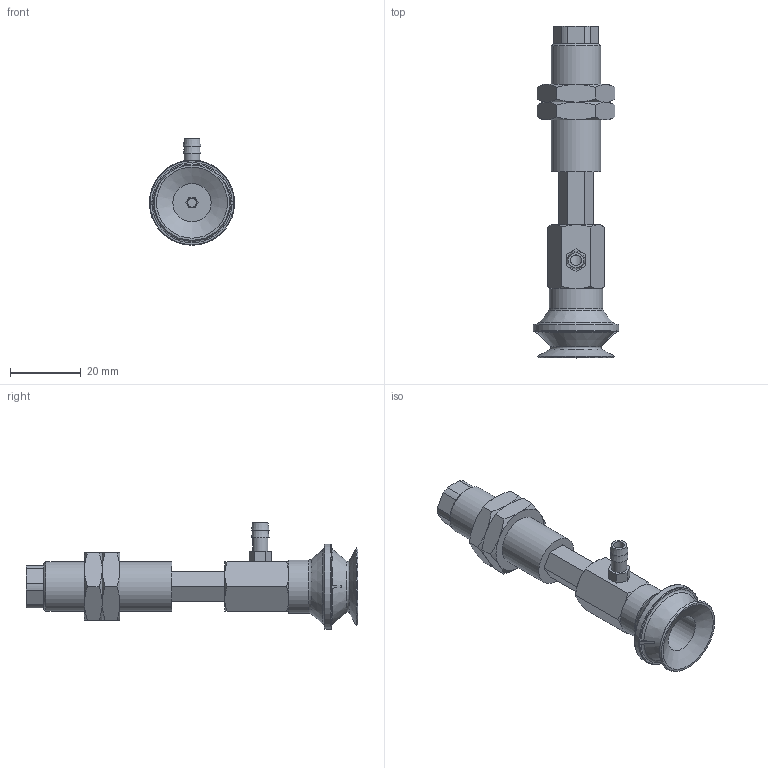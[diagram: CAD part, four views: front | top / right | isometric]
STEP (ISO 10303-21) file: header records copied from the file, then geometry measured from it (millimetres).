
FILE_DESCRIPTION(('STEP AP203'),'1');
FILE_NAME('-T.stp','2025-04-02T01:57:14',(' '),(' '),'Spatial InterOp 3D',' ',' ');
FILE_SCHEMA(('CONFIG_CONTROL_DESIGN'));
Length unit declared in the file: millimetre
Products named in the file (8): BNABPBYH-20-15-※-T; Adapter20-T-NAPB; CONNECTOR-20-15-PB; Nut-20-S-PB; NAPBTH-20-15-FBODY; NAPBTH-20-15-MBODY; BPBG-20-※; T
Assembly tree (8 placements, depth 2):
  BNABPBYH-20-15-※-T
    Adapter20-T-NAPB
    CONNECTOR-20-15-PB
    Nut-20-S-PB  x2
    NAPBTH-20-15-FBODY
    NAPBTH-20-15-MBODY
    BPBG-20-※
    T
Bounding box: 24 x 93.5 x 30 mm (x, y, z)
Volume: 14993.2 mm3; surface area: 11818.7 mm2
Topology: 8 solids, 8 shells, 183 faces, 405 edges, 251 vertices
Faces by surface type: plane 91, cone 59, cylinder 24, torus 9
Full cylindrical faces by diameter (mm): 2.5 x1, 3 x2, 4.134 x3, 4.3 x1, 4.6 x1, 5 x3, 10.8 x1, 11 x1, 12.917 x2, 14 x1, 15 x1, 24 x1
Entity records: 4802 total; most frequent: CARTESIAN_POINT 1055, DIRECTION 706, ORIENTED_EDGE 612, EDGE_CURVE 306, AXIS2_PLACEMENT_3D 283, EDGE_LOOP 228, VERTEX_POINT 214, FACE_OUTER_BOUND 184
